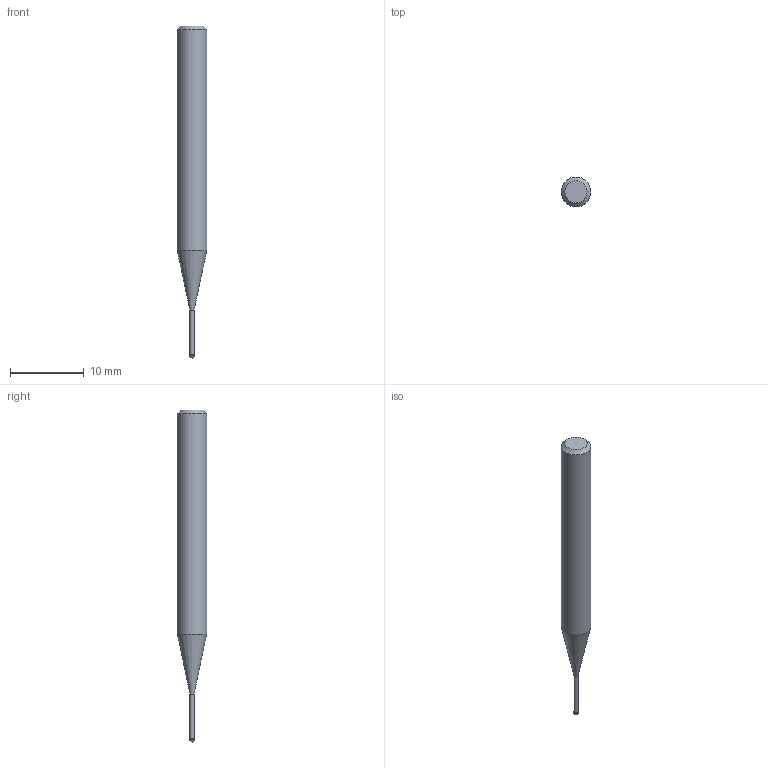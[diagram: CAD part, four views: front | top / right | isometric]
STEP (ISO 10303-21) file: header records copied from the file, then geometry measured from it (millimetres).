
FILE_DESCRIPTION((''),'2;1');
FILE_NAME('C:\Users\nsx150\AppData\Local\Temp\Mastercam 2021\ARV7HD45SN\TEMP.step','2023-06-13T16:34:16',(''),(''),'STEP Write','Mastercam 2021 ... CNC Software, Inc.','');
FILE_SCHEMA(('AUTOMOTIVE_DESIGN'));
Length unit declared in the file: millimetre
Products named in the file (1): None
Bounding box: 4 x 4 x 45 mm (x, y, z)
Volume: 421.6 mm3; surface area: 462 mm2
Topology: 2 solids, 2 shells, 9 faces, 14 edges, 8 vertices
Faces by surface type: plane 3, cylinder 3, cone 2, sphere 1
Full cylindrical faces by diameter (mm): 0.56 x1, 0.6 x1, 4 x1
Entity records: 211 total; most frequent: DIRECTION 36, CARTESIAN_POINT 25, AXIS2_PLACEMENT_3D 18, ORIENTED_EDGE 14, EDGE_LOOP 14, STYLED_ITEM 12, ADVANCED_FACE 9, FACE_BOUND 8
